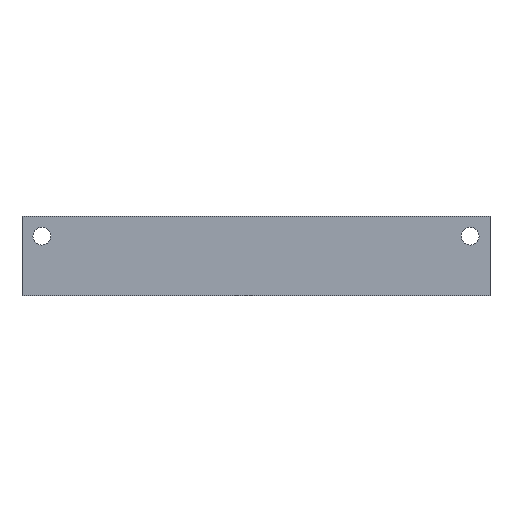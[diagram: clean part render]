
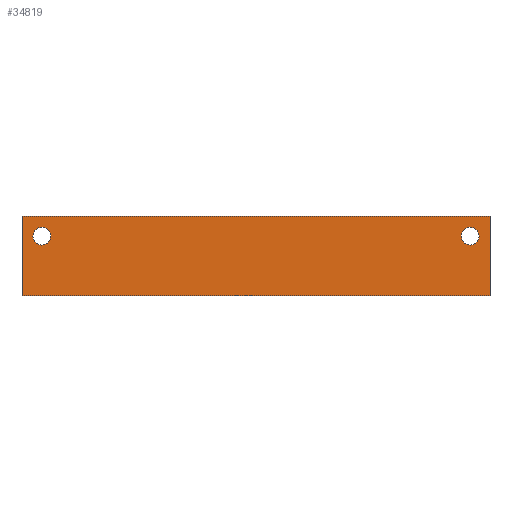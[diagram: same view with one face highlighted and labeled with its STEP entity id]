
A CAD part, front view. The second image highlights one B-rep face of the part: STEP entity #34819.
In plain terms, the highlighted planar face has unit normal (0, -1, 0).
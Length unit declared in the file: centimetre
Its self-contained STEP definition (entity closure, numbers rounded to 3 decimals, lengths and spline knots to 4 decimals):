
#619=CIRCLE('',#71920,0.225);
#812=CIRCLE('',#72717,0.225);
#2567=VERTEX_POINT('',#46625);
#2578=VERTEX_POINT('',#46650);
#2579=VERTEX_POINT('',#46652);
#4021=VERTEX_POINT('',#57820);
#4028=VERTEX_POINT('',#57839);
#4029=VERTEX_POINT('',#57844);
#6046=VECTOR('',#37834,1.);
#7494=VECTOR('',#40400,1.);
#7506=VECTOR('',#40413,1.);
#7507=VECTOR('',#40418,1.);
#9718=LINE('',#46651,#6046);
#11150=LINE('',#57819,#7494);
#11162=LINE('',#57840,#7506);
#11163=LINE('',#57845,#7507);
#13540=EDGE_CURVE('',#2567,#2567,#619,.T.);
#13553=EDGE_CURVE('',#2579,#2578,#9718,.T.);
#15778=EDGE_CURVE('',#2579,#4021,#11150,.T.);
#15790=EDGE_CURVE('',#4028,#2578,#11162,.T.);
#15791=EDGE_CURVE('',#4029,#4029,#812,.T.);
#15792=EDGE_CURVE('',#4021,#4028,#11163,.T.);
#23802=ORIENTED_EDGE('',*,*,#13540,.F.);
#23803=ORIENTED_EDGE('',*,*,#15791,.T.);
#23804=ORIENTED_EDGE('',*,*,#15790,.F.);
#23805=ORIENTED_EDGE('',*,*,#15792,.F.);
#23806=ORIENTED_EDGE('',*,*,#15778,.F.);
#23807=ORIENTED_EDGE('',*,*,#13553,.T.);
#30337=EDGE_LOOP('',(#23802));
#30338=EDGE_LOOP('',(#23803));
#30339=EDGE_LOOP('',(#23804,#23805,#23806,#23807));
#32636=FACE_BOUND('',#30337,.T.);
#32637=FACE_BOUND('',#30338,.T.);
#32638=FACE_BOUND('',#30339,.T.);
#34819=ADVANCED_FACE('',(#32636,#32637,#32638),#36503,.F.);
#36503=PLANE('',#72716);
#37818=DIRECTION('',(0.,-1.,0.));
#37819=DIRECTION('',(-0.225,0.,0.));
#37834=DIRECTION('',(0.,0.,1.));
#40400=DIRECTION('',(-1.,0.,0.));
#40413=DIRECTION('',(1.,0.,0.));
#40415=DIRECTION('',(0.,1.,0.));
#40416=DIRECTION('',(0.,1.,0.));
#40417=DIRECTION('',(0.225,0.,0.));
#40418=DIRECTION('',(0.,0.,1.));
#46624=CARTESIAN_POINT('',(8.5,0.,0.5));
#46625=CARTESIAN_POINT('',(8.725,0.,0.5));
#46650=CARTESIAN_POINT('',(9.,0.,1.));
#46651=CARTESIAN_POINT('',(9.,0.,-1.));
#46652=CARTESIAN_POINT('',(9.,0.,-1.));
#57819=CARTESIAN_POINT('',(-1.,0.,-1.));
#57820=CARTESIAN_POINT('',(-2.8,0.,-1.));
#57839=CARTESIAN_POINT('',(-2.8,0.,1.));
#57840=CARTESIAN_POINT('',(-2.8,0.,1.));
#57842=CARTESIAN_POINT('',(0.5,0.,0.));
#57843=CARTESIAN_POINT('',(-2.3,0.,0.5));
#57844=CARTESIAN_POINT('',(-2.525,0.,0.5));
#57845=CARTESIAN_POINT('',(-2.8,0.,-1.));
#71920=AXIS2_PLACEMENT_3D('',#46624,#37818,#37819);
#72716=AXIS2_PLACEMENT_3D('',#57842,#40415,$);
#72717=AXIS2_PLACEMENT_3D('',#57843,#40416,#40417);
